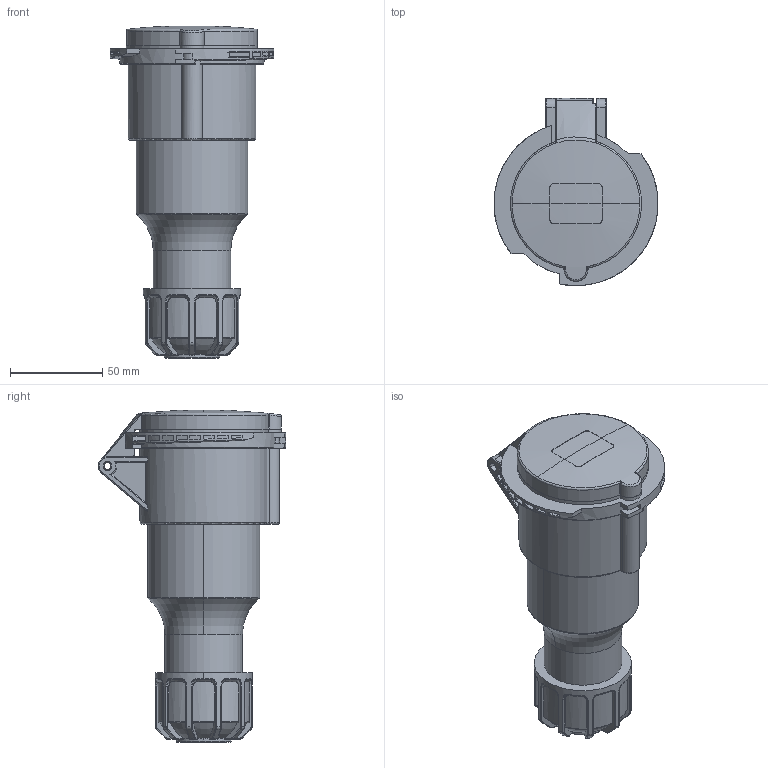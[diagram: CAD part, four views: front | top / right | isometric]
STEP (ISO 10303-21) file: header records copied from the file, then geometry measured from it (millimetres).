
FILE_DESCRIPTION(('FreeCAD Model'),'2;1');
FILE_NAME('Open CASCADE Shape Model','2026-02-04T10:56:49',(''),(''), 'Open CASCADE STEP processor 7.8','FreeCAD','Unknown');
FILE_SCHEMA(('AUTOMOTIVE_DESIGN { 1 0 10303 214 1 1 1 1 }'));
Length unit declared in the file: millimetre
Products named in the file (4): TL3T32453; Tampa; Prensa cabo; Corpo tomada
Assembly tree (3 placements, depth 2):
  TL3T32453
    Tampa
    Prensa cabo
    Corpo tomada
Bounding box: 88.7 x 101.4 x 179.62 mm (x, y, z)
Volume: 425442.8 mm3; surface area: 89117.9 mm2
Topology: 3 solids, 5 shells, 658 faces, 1698 edges, 1067 vertices
Faces by surface type: plane 215, cylinder 209, bspline 133, torus 68, cone 26, sphere 7
Full cylindrical faces by diameter (mm): 42 x2
Entity records: 31237 total; most frequent: CARTESIAN_POINT 16310, ORIENTED_EDGE 3390, DIRECTION 2739, EDGE_CURVE 1695, VERTEX_POINT 1067, AXIS2_PLACEMENT_3D 1057, FACE_BOUND 688, EDGE_LOOP 688
